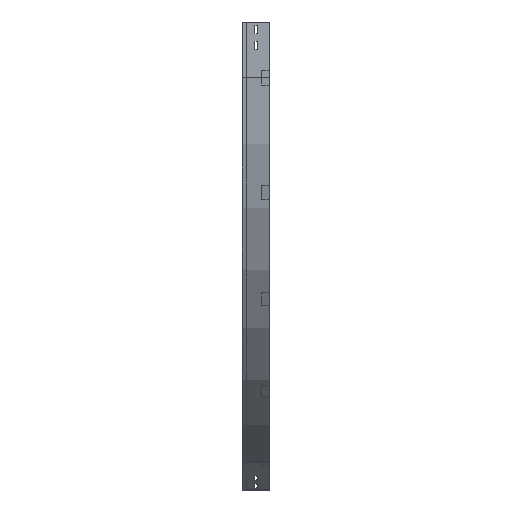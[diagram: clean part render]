
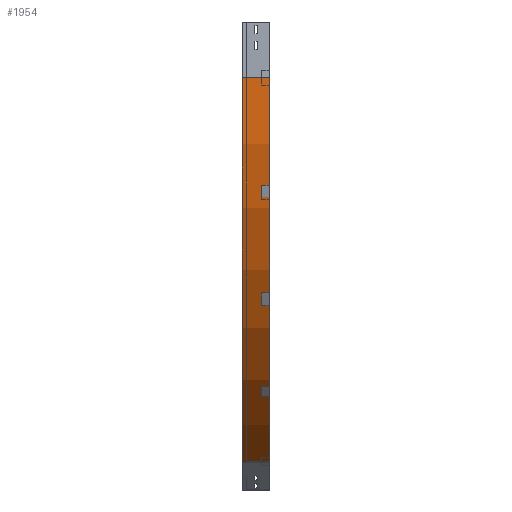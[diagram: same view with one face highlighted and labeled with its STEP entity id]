
A CAD part, left-side view. The second image highlights one B-rep face of the part: STEP entity #1954.
In plain terms, the highlighted cylindrical face has radius 1200 mm (diameter 2400 mm), a partial arc.
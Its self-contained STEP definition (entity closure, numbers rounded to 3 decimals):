
#82 = DIRECTION ( 'NONE',  ( 0., -1., 0. ) ) ;
#197 = DIRECTION ( 'NONE',  ( 0., 0., -1. ) ) ;
#465 = DIRECTION ( 'NONE',  ( 0., -1., 0. ) ) ;
#482 = DIRECTION ( 'NONE',  ( -1., 0., 0. ) ) ;
#590 = VERTEX_POINT ( 'NONE', #2770 ) ;
#727 = EDGE_CURVE ( 'NONE', #1178, #590, #3485, .T. ) ;
#731 = VERTEX_POINT ( 'NONE', #2807 ) ;
#797 = CYLINDRICAL_SURFACE ( 'NONE', #3775, 1200. ) ;
#859 = AXIS2_PLACEMENT_3D ( 'NONE', #2215, #1372, #482 ) ;
#970 = ORIENTED_EDGE ( 'NONE', *, *, #2275, .T. ) ;
#1008 = CARTESIAN_POINT ( 'NONE',  ( 600., 0., -1189.23 ) ) ;
#1029 = VECTOR ( 'NONE', #465, 1000. ) ;
#1178 = VERTEX_POINT ( 'NONE', #1486 ) ;
#1244 = LINE ( 'NONE', #1008, #3338 ) ;
#1260 = DIRECTION ( 'NONE',  ( -1., 0., 0. ) ) ;
#1298 = VERTEX_POINT ( 'NONE', #2740 ) ;
#1372 = DIRECTION ( 'NONE',  ( 0., -1., 0. ) ) ;
#1486 = CARTESIAN_POINT ( 'NONE',  ( 0., 0., -150. ) ) ;
#1689 = FACE_OUTER_BOUND ( 'NONE', #1990, .T. ) ;
#1703 = AXIS2_PLACEMENT_3D ( 'NONE', #2731, #82, #1260 ) ;
#1790 = ORIENTED_EDGE ( 'NONE', *, *, #727, .F. ) ;
#1954 = ADVANCED_FACE ( 'NONE', ( #1689 ), #797, .T. ) ;
#1990 = EDGE_LOOP ( 'NONE', ( #1790, #3344, #970, #3215 ) ) ;
#2172 = EDGE_CURVE ( 'NONE', #731, #590, #1244, .T. ) ;
#2215 = CARTESIAN_POINT ( 'NONE',  ( 1200., 0., -150. ) ) ;
#2275 = EDGE_CURVE ( 'NONE', #1298, #731, #3270, .T. ) ;
#2435 = DIRECTION ( 'NONE',  ( 0., -1., 0. ) ) ;
#2731 = CARTESIAN_POINT ( 'NONE',  ( 1200., 75., -150. ) ) ;
#2740 = CARTESIAN_POINT ( 'NONE',  ( 0., 75., -150. ) ) ;
#2770 = CARTESIAN_POINT ( 'NONE',  ( 600., 0., -1189.23 ) ) ;
#2807 = CARTESIAN_POINT ( 'NONE',  ( 600., 75., -1189.23 ) ) ;
#2849 = CARTESIAN_POINT ( 'NONE',  ( 0., 0., -150. ) ) ;
#2882 = CARTESIAN_POINT ( 'NONE',  ( 1200., 0., -150. ) ) ;
#3162 = LINE ( 'NONE', #2849, #1029 ) ;
#3215 = ORIENTED_EDGE ( 'NONE', *, *, #2172, .T. ) ;
#3270 = CIRCLE ( 'NONE', #1703, 1200. ) ;
#3338 = VECTOR ( 'NONE', #2435, 1000. ) ;
#3344 = ORIENTED_EDGE ( 'NONE', *, *, #3349, .F. ) ;
#3349 = EDGE_CURVE ( 'NONE', #1298, #1178, #3162, .T. ) ;
#3428 = DIRECTION ( 'NONE',  ( 0., -1., 0. ) ) ;
#3485 = CIRCLE ( 'NONE', #859, 1200. ) ;
#3775 = AXIS2_PLACEMENT_3D ( 'NONE', #2882, #3428, #197 ) ;
